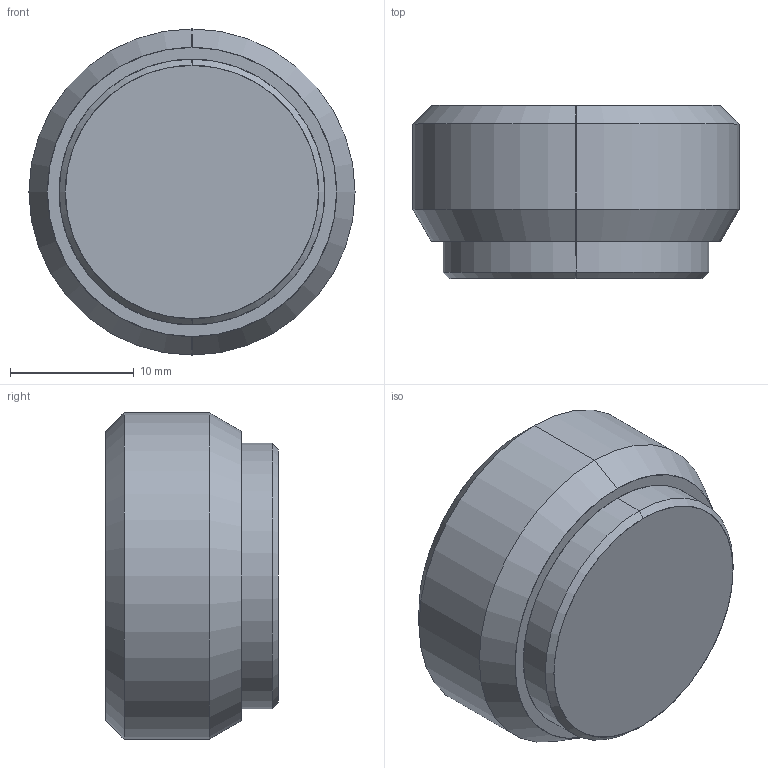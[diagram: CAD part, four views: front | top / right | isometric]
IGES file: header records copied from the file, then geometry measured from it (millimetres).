
Start section: SolidWorks IGES file using analytic representation for surfaces
Global section: file name: K:\Disegni Esecutivi\Accessori\3026\ASSIEMI_.IGES_3026\0302600010700A.IGS; native system: SolidWorks 2009; preprocessor: SolidWorks 2009; author: cad05; date: 090504.173617; units: millimetre
Bounding box: 26.4 x 14 x 26.4 mm (x, y, z)
Surface area: 2464.8 mm2 (no closed solid volume)
Topology: 0 solids, 0 shells, 43 faces, 466 edges, 464 vertices
Faces by surface type: revolution 25, bspline 18
